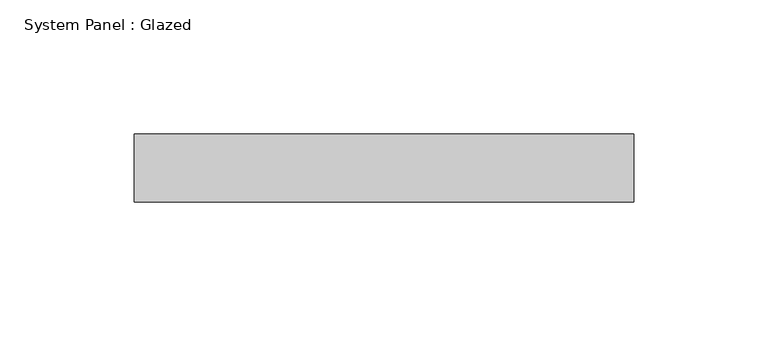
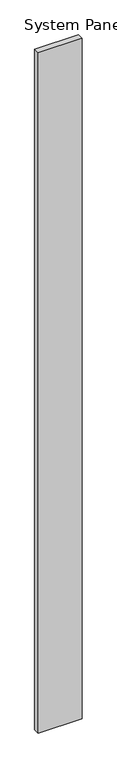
"""IFC4 building model written with IfcOpenShell, lengths in millimetres: plate geometry, System Panel : Glazed."""

import ifcopenshell
import ifcopenshell.guid

model = None  # the IFC model being written
_history = None  # IfcOwnerHistory: only IFC2X3 demands one
_inside = {}  # id of a spatial element -> (the spatial element, [elements in it])
_under = {}  # id of a project, library or spatial element -> (it, [spatial elements below it])
_declared = {}  # id of a project -> (the project, [libraries it declares])
_typed = {}  # id of a type object -> (the type object, [elements of that type])
_made_of = {}  # id of a material, layer set ... -> (it, [elements and type objects made of it])


def new_model(schema):
    """Start an empty IFC model of exactly this schema.

    Asked for "IFC4X3", IfcOpenShell would pick the latest addendum, in which some entities
    have other attributes; the version numbers below select the first issue.
    IFC2X3 requires an IfcOwnerHistory on every rooted entity: one is made here for all.
    """
    global model, _history
    if schema == "IFC4X3":
        model = ifcopenshell.file(schema_version=(4, 3, 0, 0))
    else:
        model = ifcopenshell.file(schema=schema)
    _inside.clear()
    _under.clear()
    _declared.clear()
    _typed.clear()
    _made_of.clear()
    _history = None
    if model.schema == "IFC2X3":
        org = make("IfcOrganization", Name="unknown")
        user = make(
            "IfcPersonAndOrganization",
            ThePerson=make("IfcPerson", FamilyName="unknown"),
            TheOrganization=org,
        )
        app = make(
            "IfcApplication",
            ApplicationDeveloper=org,
            Version="unknown",
            ApplicationFullName="unknown",
            ApplicationIdentifier="unknown",
        )
        _history = make(
            "IfcOwnerHistory",
            OwningUser=user,
            OwningApplication=app,
            ChangeAction="ADDED",
            CreationDate=0,
        )
    return model


def make(cls, **values):
    """One entity of the class cls with the attributes given. An attribute that is None is left unset."""
    return model.create_entity(
        cls, **{name: value for name, value in values.items() if value is not None}
    )


def rooted(cls, **values):
    """An entity with a GlobalId (a new one), such as an element, a storey or a relation."""
    return make(cls, GlobalId=ifcopenshell.guid.new(), OwnerHistory=_history, **values)


def si_unit(unit_type, name, prefix=None):
    """IfcSIUnit, for example si_unit("LENGTHUNIT", "METRE", prefix="MILLI")."""
    return make("IfcSIUnit", UnitType=unit_type, Prefix=prefix, Name=name)


def assignment(units):
    """IfcUnitAssignment: the units of a project."""
    return None if units is None else make("IfcUnitAssignment", Units=units)


def point(xyz):
    """IfcCartesianPoint."""
    return None if xyz is None else make("IfcCartesianPoint", Coordinates=xyz)


def direction(xyz):
    """IfcDirection."""
    return None if xyz is None else make("IfcDirection", DirectionRatios=xyz)


def frame(location, z_axis=None, x_axis=None):
    """IfcAxis2Placement3D, a coordinate frame: its origin and axes. An axis left out is left unset."""
    return make(
        "IfcAxis2Placement3D",
        Location=point(location),
        Axis=direction(z_axis),
        RefDirection=direction(x_axis),
    )


def origin():
    """The frame at (0, 0, 0) with its axes left unset."""
    return frame((0.0, 0.0, 0.0))


def origin_with_axes():
    """The frame at (0, 0, 0) with the z axis (0, 0, 1) and the x axis (1, 0, 0) written out."""
    return frame((0.0, 0.0, 0.0), z_axis=(0.0, 0.0, 1.0), x_axis=(1.0, 0.0, 0.0))


def place(relative_to, where):
    """IfcLocalPlacement: puts the frame where relative to a parent placement (None: the world)."""
    return make(
        "IfcLocalPlacement", PlacementRelTo=relative_to, RelativePlacement=where
    )


def context(
    kind, dimensions, precision=None, world=None, true_north=None, identifier=None
):
    """IfcGeometricRepresentationContext, for example the 3D "Model" context."""
    return make(
        "IfcGeometricRepresentationContext",
        ContextIdentifier=identifier,
        ContextType=kind,
        CoordinateSpaceDimension=dimensions,
        Precision=precision,
        WorldCoordinateSystem=world,
        TrueNorth=true_north,
    )


def project(units=None, contexts=None):
    """IfcProject with its units and contexts."""
    return rooted(
        "IfcProject",
        Name="project",
        RepresentationContexts=contexts,
        UnitsInContext=assignment(units),
    )


def spatial(cls, under=None, at=None, **own):
    """A site, building, storey or space (cls), placed at a placement, below another one or the project."""
    s = rooted(cls, ObjectPlacement=at, **own)
    if under is not None:
        _under.setdefault(under.id(), (under, []))[1].append(s)
    return s


def polyline(points):
    """IfcPolyline through the points."""
    return make("IfcPolyline", Points=[point(p) for p in points])


def outline(outer, holes=None, kind="AREA"):
    """IfcArbitraryClosedProfileDef: a profile drawn as a closed curve; with holes, ...WithVoids."""
    if holes is None:
        return make("IfcArbitraryClosedProfileDef", ProfileType=kind, OuterCurve=outer)
    return make(
        "IfcArbitraryProfileDefWithVoids",
        ProfileType=kind,
        OuterCurve=outer,
        InnerCurves=holes,
    )


def extrude(swept, where, along, depth):
    """IfcExtrudedAreaSolid: the profile swept, set in the frame where, extruded along a direction by depth."""
    return make(
        "IfcExtrudedAreaSolid",
        SweptArea=swept,
        Position=where,
        ExtrudedDirection=direction(along),
        Depth=depth,
    )


def shape(context_of_items, identifier, shape_type, items):
    """IfcShapeRepresentation: the items that make up one representation, for example the "Body"."""
    return make(
        "IfcShapeRepresentation",
        ContextOfItems=context_of_items,
        RepresentationIdentifier=identifier,
        RepresentationType=shape_type,
        Items=items,
    )


def source(mapping_origin, context_of_items, identifier, shape_type, items):
    """IfcRepresentationMap: a shape defined once, which mapped items show again and again."""
    return make(
        "IfcRepresentationMap",
        MappingOrigin=mapping_origin,
        MappedRepresentation=shape(context_of_items, identifier, shape_type, items),
    )


def transform(
    local_origin,
    x_axis=None,
    y_axis=None,
    z_axis=None,
    scale=None,
    scale2=None,
    scale3=None,
    uniform=True,
):
    """IfcCartesianTransformationOperator3D, or its non-uniform kind. x_axis, y_axis, z_axis: its Axis1, 2, 3."""
    if uniform:
        return make(
            "IfcCartesianTransformationOperator3D",
            Axis1=direction(x_axis),
            Axis2=direction(y_axis),
            LocalOrigin=point(local_origin),
            Scale=scale,
            Axis3=direction(z_axis),
        )
    return make(
        "IfcCartesianTransformationOperator3DnonUniform",
        Axis1=direction(x_axis),
        Axis2=direction(y_axis),
        LocalOrigin=point(local_origin),
        Scale=scale,
        Axis3=direction(z_axis),
        Scale2=scale2,
        Scale3=scale3,
    )


def mapped(mapping_source, mapping_target):
    """IfcMappedItem: shows the shape of a source again, moved by a transform."""
    return make(
        "IfcMappedItem", MappingSource=mapping_source, MappingTarget=mapping_target
    )


def made_of(thing, what):
    """Note that an element or type object is made of a material, layer set ...; save() writes the relation."""
    if what is not None:
        _made_of.setdefault(what.id(), (what, []))[1].append(thing)
    return thing


def element(
    cls,
    number,
    at=None,
    inside=None,
    cuts=None,
    type_object=None,
    material=None,
    context=None,
    identifier="Body",
    shape_type=None,
    held_by="IfcProductDefinitionShape",
    body=None,
    shapes=None,
    **own,
):
    """One element of the class cls, such as IfcWall. Its Tag is "e" and its number.

    at: its placement. inside: the storey or other place that contains it. cuts: it is an
    opening in that element (IfcRelVoidsElement). A single representation is given by context,
    identifier, shape_type and body (its items); several are given by shapes. held_by: the class
    of the entity that holds the representations. save() writes the other relations.
    """
    e = rooted(cls, Tag="e%d" % number, ObjectPlacement=at, **own)
    if body is not None:
        shapes = [shape(context, identifier, shape_type, body)]
    if shapes is not None:
        e.Representation = make(held_by, Representations=shapes)
    if inside is not None:
        _inside.setdefault(inside.id(), (inside, []))[1].append(e)
    if cuts is not None:
        rooted(
            "IfcRelVoidsElement", RelatingBuildingElement=cuts, RelatedOpeningElement=e
        )
    if type_object is not None:
        _typed.setdefault(type_object.id(), (type_object, []))[1].append(e)
    return made_of(e, material)


def aggregate(whole, parts):
    """IfcRelAggregates: a whole, such as a stair, and the parts it consists of."""
    return rooted("IfcRelAggregates", RelatingObject=whole, RelatedObjects=parts)


def save(model, path):
    """Write the relations noted so far, then the file.

    IfcRelAggregates (storeys below a building ...), IfcRelContainedInSpatialStructure (elements
    in a storey), IfcRelDefinesByType, IfcRelAssociatesMaterial and IfcRelDeclares: one each for
    every whole, place, type object, material and project.
    """
    for whole, parts in _under.values():
        aggregate(whole, parts)
    for where, things in _inside.values():
        rooted(
            "IfcRelContainedInSpatialStructure",
            RelatedElements=things,
            RelatingStructure=where,
        )
    for kind, things in _typed.values():
        rooted("IfcRelDefinesByType", RelatedObjects=things, RelatingType=kind)
    for what, things in _made_of.values():
        rooted("IfcRelAssociatesMaterial", RelatedObjects=things, RelatingMaterial=what)
    for by, libraries in _declared.values():
        rooted("IfcRelDeclares", RelatingContext=by, RelatedDefinitions=libraries)
    model.write(path)


def system_panel_glazed_c9160bb2(model_context):
    return source(origin(), model_context, "Body", "SweptSolid", [
        extrude(outline(polyline([(92.9906545, -44.45), (-92.9906545, -44.45), (-92.9906545, -19.05), (92.9906545, -19.05), (92.9906545, -44.45)])), origin_with_axes(), (0.0, 0.0, 1.0), 3048.0),
    ])


if __name__ == "__main__":
    model = new_model("IFC4")
    model_context = context("Model", 3, world=origin())
    ifc_project = project(units=[si_unit("LENGTHUNIT", "METRE", prefix="MILLI")], contexts=[model_context])
    site = spatial("IfcSite", under=ifc_project)
    building = spatial("IfcBuilding", under=site)
    placement = place(None, origin())
    system_panel_glazed_shape = system_panel_glazed_c9160bb2(model_context)
    element("IfcPlate", 1, ObjectType="System Panel : Glazed", at=placement, inside=building, context=model_context, shape_type="MappedRepresentation", body=[
        mapped(system_panel_glazed_shape, transform((0.0, 0.0, 0.0), x_axis=(1.0, 0.0, 0.0), y_axis=(0.0, 1.0, 0.0), z_axis=(0.0, 0.0, 1.0))),
    ])
    save(model, "model.ifc")
